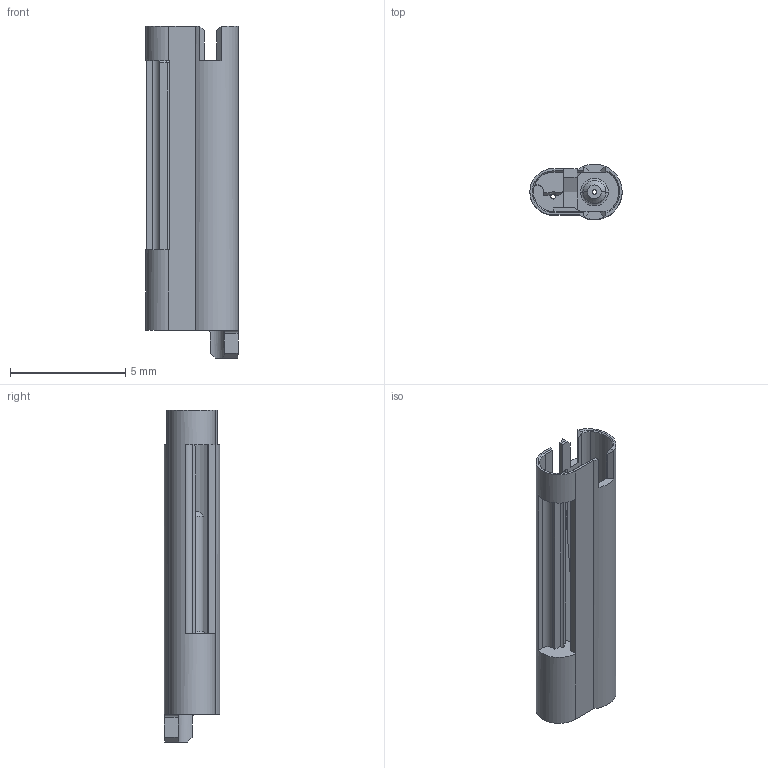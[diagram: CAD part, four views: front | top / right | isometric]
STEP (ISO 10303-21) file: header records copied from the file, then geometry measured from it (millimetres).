
FILE_DESCRIPTION (( 'STEP AP214' ), '1' );
FILE_NAME ('TRL-0044-OFF1-2L-A.STEP', '2021-06-27T15:18:31', ( '' ), ( '' ), 'SwSTEP 2.0', 'SolidWorks 2016', '' );
FILE_SCHEMA (( 'AUTOMOTIVE_DESIGN' ));
Length unit declared in the file: millimetre
Products named in the file (1): TRL-0044-OFF1-2L-A
Bounding box: 4 x 2.4 x 14.4 mm (x, y, z)
Volume: 54.3 mm3; surface area: 263.5 mm2
Topology: 1 solids, 1 shells, 98 faces, 268 edges, 171 vertices
Faces by surface type: plane 58, cylinder 23, cone 12, bspline 3, torus 2
Entity records: 3505 total; most frequent: CARTESIAN_POINT 999, ORIENTED_EDGE 536, DIRECTION 500, EDGE_CURVE 268, LINE 176, VECTOR 176, VERTEX_POINT 171, AXIS2_PLACEMENT_3D 162
